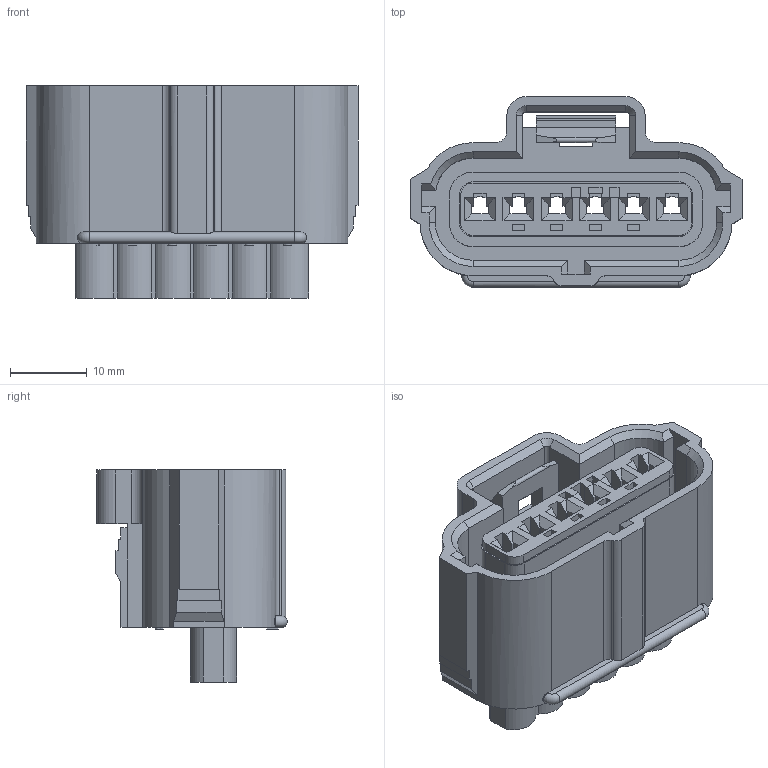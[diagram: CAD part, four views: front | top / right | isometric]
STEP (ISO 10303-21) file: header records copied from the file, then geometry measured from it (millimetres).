
FILE_DESCRIPTION((''),'2;1');
FILE_NAME('C-0184060-01-3','2007-09-03T',('workeradm'),('Tyco Electronics Corporation'),'PRO/ENGINEER BY PARAMETRIC TECHNOLOGY CORPORATION, 2005450','PRO/ENGINEER BY PARAMETRIC TECHNOLOGY CORPORATION, 2005450','');
FILE_SCHEMA(('CONFIG_CONTROL_DESIGN', 'GEOMETRIC_VALIDATION_PROPERTIES_MIM'));
Length unit declared in the file: millimetre
Products named in the file (1): C-0184060-01-3
Bounding box: 43.2 x 24.8 x 27.6 mm (x, y, z)
Volume: 9806.4 mm3; surface area: 9889.6 mm2
Topology: 1 solids, 1 shells, 574 faces, 1612 edges, 1056 vertices
Faces by surface type: plane 501, cylinder 63, cone 6, torus 2, extrusion 2
Entity records: 18430 total; most frequent: CARTESIAN_POINT 3364, ORIENTED_EDGE 3224, DIRECTION 2888, EDGE_CURVE 1612, VECTOR 1456, LINE 1454, VERTEX_POINT 1056, AXIS2_PLACEMENT_3D 716
